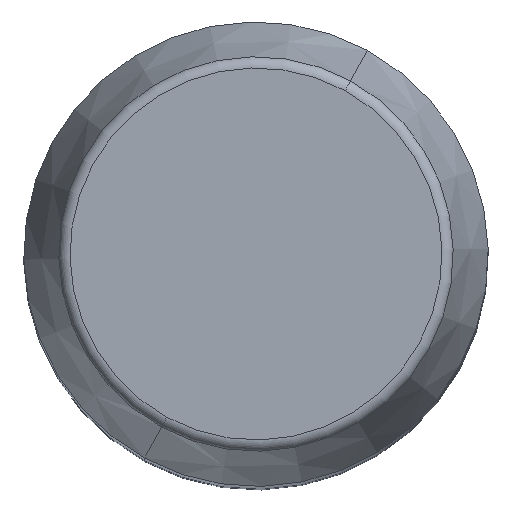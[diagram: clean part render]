
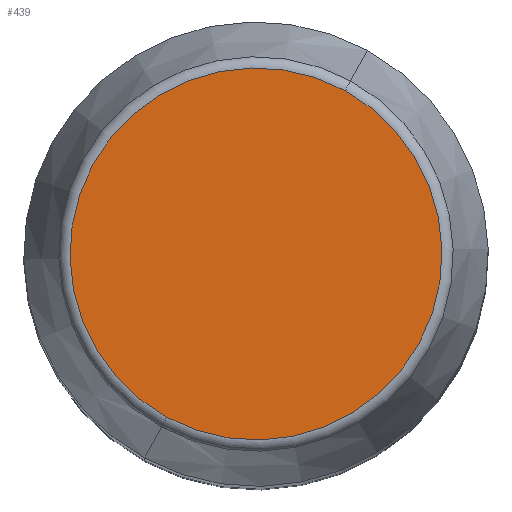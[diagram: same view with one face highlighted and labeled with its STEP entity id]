
A CAD part, top view. The second image highlights one B-rep face of the part: STEP entity #439.
In plain terms, the highlighted planar face has unit normal (0, 0, 1).
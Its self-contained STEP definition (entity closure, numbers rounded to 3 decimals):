
#391=CARTESIAN_POINT('Vertex',(-7.679,-14.056,200.)) ;
#394=CARTESIAN_POINT('Axis2P3D Location',(0.,0.,200.)) ;
#398=CARTESIAN_POINT('Vertex',(7.679,14.056,200.)) ;
#418=CARTESIAN_POINT('Axis2P3D Location',(0.,0.,200.)) ;
#430=CARTESIAN_POINT('Axis2P3D Location',(0.,16.017,200.)) ;
#395=DIRECTION('Axis2P3D Direction',(0.,0.,-1.)) ;
#419=DIRECTION('Axis2P3D Direction',(0.,0.,-1.)) ;
#431=DIRECTION('Axis2P3D Direction',(0.,0.,-1.)) ;
#432=DIRECTION('Axis2P3D XDirection',(1.,0.,0.)) ;
#396=AXIS2_PLACEMENT_3D('Circle Axis2P3D',#394,#395,$) ;
#420=AXIS2_PLACEMENT_3D('Circle Axis2P3D',#418,#419,$) ;
#433=AXIS2_PLACEMENT_3D('Plane Axis2P3D',#430,#431,#432) ;
#436=ORIENTED_EDGE('',*,*,#422,.F.) ;
#437=ORIENTED_EDGE('',*,*,#400,.F.) ;
#439=ADVANCED_FACE('PartBody',(#438),#434,.F.) ;
#397=CIRCLE('generated circle',#396,16.017) ;
#421=CIRCLE('generated circle',#420,16.017) ;
#400=EDGE_CURVE('',#392,#399,#397,.T.) ;
#422=EDGE_CURVE('',#399,#392,#421,.T.) ;
#435=EDGE_LOOP('',(#436,#437)) ;
#438=FACE_OUTER_BOUND('',#435,.T.) ;
#434=PLANE('Plane',#433) ;
#392=VERTEX_POINT('',#391) ;
#399=VERTEX_POINT('',#398) ;
